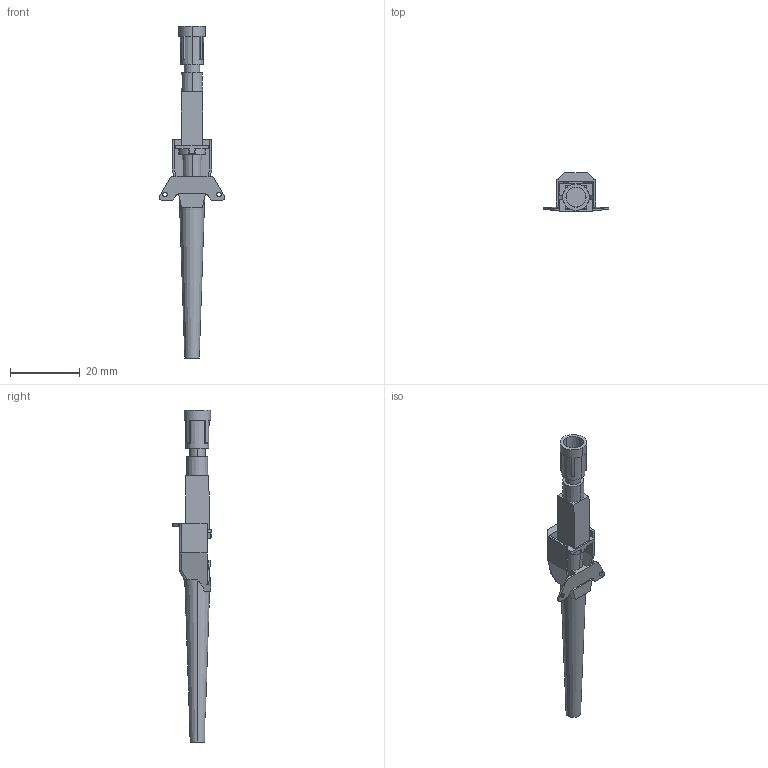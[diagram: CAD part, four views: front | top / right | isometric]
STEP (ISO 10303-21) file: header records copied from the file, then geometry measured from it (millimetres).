
FILE_DESCRIPTION((''),'2;1');
FILE_NAME('SPRITZE_GESAMT_ASM','2015-02-23T',('diplent3'),('Schunk GmbH & Co.KG'),'PRO/ENGINEER BY PARAMETRIC TECHNOLOGY CORPORATION, 2013040','PRO/ENGINEER BY PARAMETRIC TECHNOLOGY CORPORATION, 2013040','');
FILE_SCHEMA(('AUTOMOTIVE_DESIGN_CC2 { 1 2 10303 214 -1 1 5 2 }'));
Length unit declared in the file: millimetre
Products named in the file (5): KANUELE_V2; NADEL; DECKEL_NADEL; DECKEL_SPRITZE; SPRITZE_GESAMT_ASM
Assembly tree (4 placements, depth 2):
  SPRITZE_GESAMT_ASM
    KANUELE_V2
    NADEL
    DECKEL_NADEL
    DECKEL_SPRITZE
Bounding box: 18.72 x 11.03 x 95.25 mm (x, y, z)
Volume: 2256.1 mm3; surface area: 5188 mm2
Topology: 4 solids, 4 shells, 209 faces, 564 edges, 366 vertices
Faces by surface type: plane 125, cylinder 60, cone 18, torus 4, sphere 2
Entity records: 8476 total; most frequent: CARTESIAN_POINT 1255, DIRECTION 1167, ORIENTED_EDGE 1128, EDGE_CURVE 564, PRESENTATION_STYLE_ASSIGNMENT 465, STYLED_ITEM 465, AXIS2_PLACEMENT_3D 411, CURVE_STYLE 403
